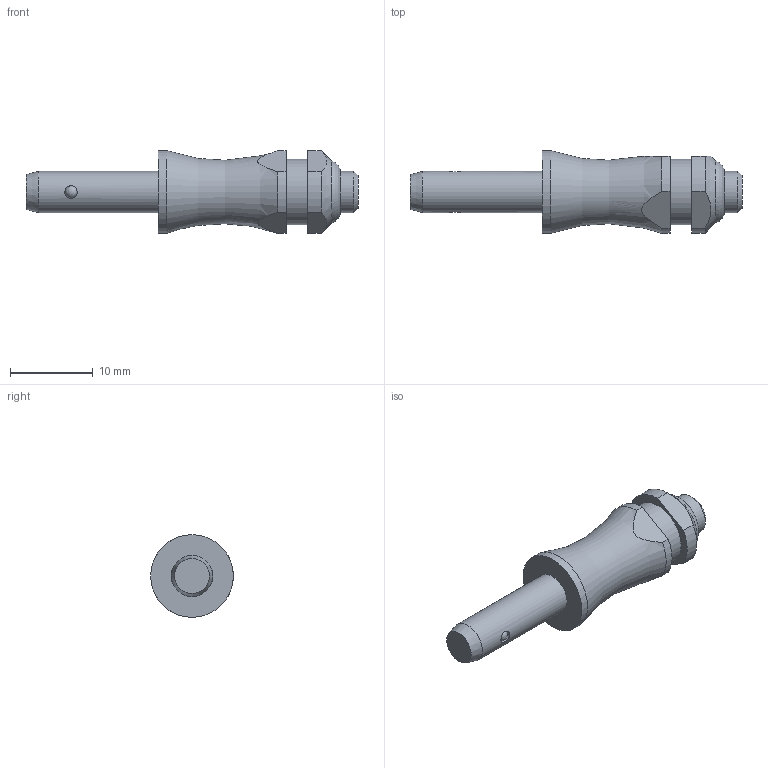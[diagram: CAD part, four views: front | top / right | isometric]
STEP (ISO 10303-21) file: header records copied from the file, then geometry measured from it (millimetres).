
FILE_DESCRIPTION( ( 'STEP AP203' ), '1' );
FILE_NAME( 'C:/Temp/Ganter_Step_05_03_2020/data/3_1/gn113_3/Stainless Steel-Ball lock pin GN 113.3-5-10 (activated).stp', '2020-03-12T08:18:08', ( 'License CC BY-ND 4.0' ), ( 'CADENAS' ), ' ', 'PARTsolutions', ' ' );
FILE_SCHEMA( ( 'CONFIG_CONTROL_DESIGN' ) );
Length unit declared in the file: millimetre
Products named in the file (1): _Stainless Steel-Ball lock pin GN 113.3-5-10 (activated)
Bounding box: 40.15 x 10 x 10 mm (x, y, z)
Volume: 1607.4 mm3; surface area: 1046.6 mm2
Topology: 1 solids, 1 shells, 31 faces, 73 edges, 46 vertices
Faces by surface type: plane 12, cylinder 12, cone 3, torus 2, sphere 2
Full cylindrical faces by diameter (mm): 1.5 x2, 5 x2, 7.9 x1, 10 x1
Entity records: 954 total; most frequent: CARTESIAN_POINT 290, DIRECTION 134, ORIENTED_EDGE 104, AXIS2_PLACEMENT_3D 58, EDGE_CURVE 52, EDGE_LOOP 48, VERTEX_POINT 40, FACE_OUTER_BOUND 39
